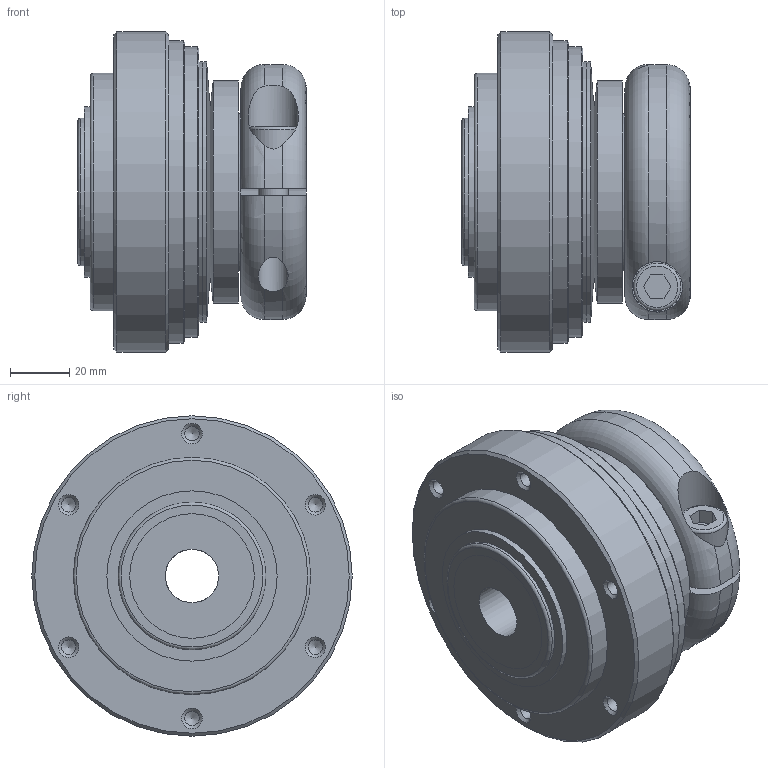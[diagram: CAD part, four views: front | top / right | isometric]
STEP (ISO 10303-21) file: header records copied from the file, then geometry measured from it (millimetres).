
FILE_DESCRIPTION(/* description */ ('Unknown'),/* implementation_level */ '2;1');
FILE_NAME(/* name */ 'SKVA-K 150',/* time_stamp */ '2025-02-12T11:35:11+01:00',/* author */ ('Unknown'),/* organization */ ('Unknown'),/* preprocessor_version */ 'ST-DEVELOPER v18.102',/* originating_system */ 'Solid Edge',/* authorisation */ 'Unknown');
FILE_SCHEMA (('AUTOMOTIVE_DESIGN {1 0 10303 214 3 1 1}'));
Length unit declared in the file: millimetre
Products named in the file (1): SKVA-K 150
Bounding box: 76.97 x 108 x 108 mm (x, y, z)
Volume: 455354.6 mm3; surface area: 56706.8 mm2
Topology: 1 solids, 2 shells, 82 faces, 191 edges, 122 vertices
Faces by surface type: cone 26, plane 26, cylinder 25, torus 5
Full cylindrical faces by diameter (mm): 4.917 x12, 10 x3, 16 x1, 17 x1, 18 x1, 49.8 x1, 57.4 x1, 75 x1, 80 x1, 98 x1, 102 x1, 108 x1
Entity records: 2535 total; most frequent: CARTESIAN_POINT 382, DIRECTION 340, ORIENTED_EDGE 228, AXIS2_PLACEMENT_3D 157, FACE_BOUND 152, EDGE_LOOP 146, EDGE_CURVE 114, VERTEX_POINT 102
